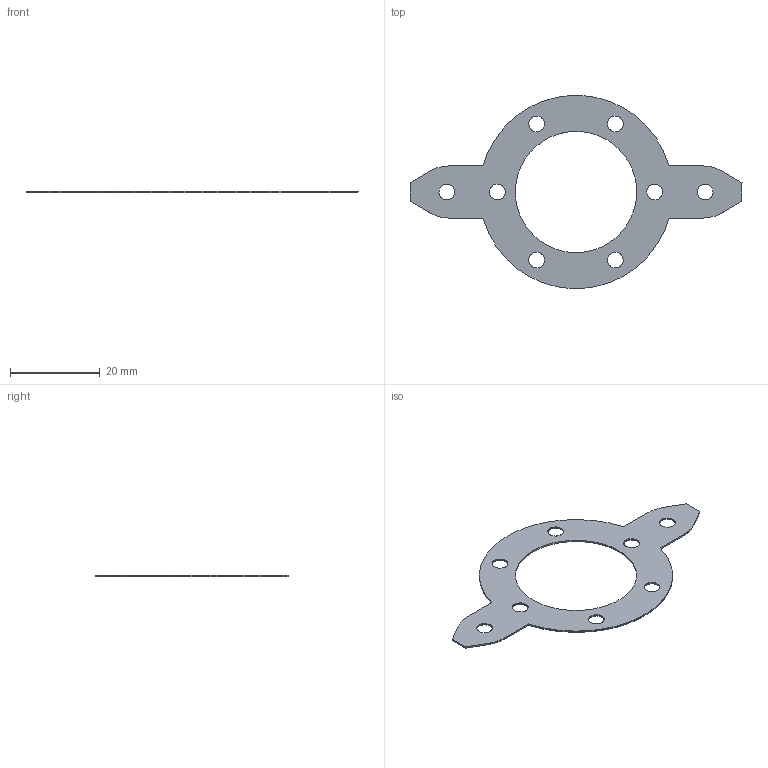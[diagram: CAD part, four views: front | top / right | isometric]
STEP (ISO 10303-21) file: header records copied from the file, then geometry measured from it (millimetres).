
FILE_DESCRIPTION ((), '1');
FILE_NAME ('F:\Energy Science\CAD Projects\Generator Research\Tesla_v1\Core\Rotor\two-Pole\twoPole-laminate.stp', '2015-10-19T00:38:41', ('Unknown'), ('Unknown'), 'HarmonyWare STEP v1.7.11', 'HarmonyWare Translators', '');
FILE_SCHEMA (('CONFIG_CONTROL_DESIGN'));
Length unit declared in the file: millimetre
Products named in the file (1): product-name: product-name
Bounding box: 73.88 x 42.94 x 0.35 mm (x, y, z)
Volume: 390 mm3; surface area: 2361.7 mm2
Topology: 1 solids, 1 shells, 45 faces, 117 edges, 74 vertices
Faces by surface type: bspline 45
Entity records: 1970 total; most frequent: CARTESIAN_POINT 1192, ORIENTED_EDGE 234, EDGE_CURVE 117, VERTEX_POINT 74, B_SPLINE_CURVE_WITH_KNOTS 69, EDGE_LOOP 63, FACE_OUTER_BOUND 45, ADVANCED_FACE 45
